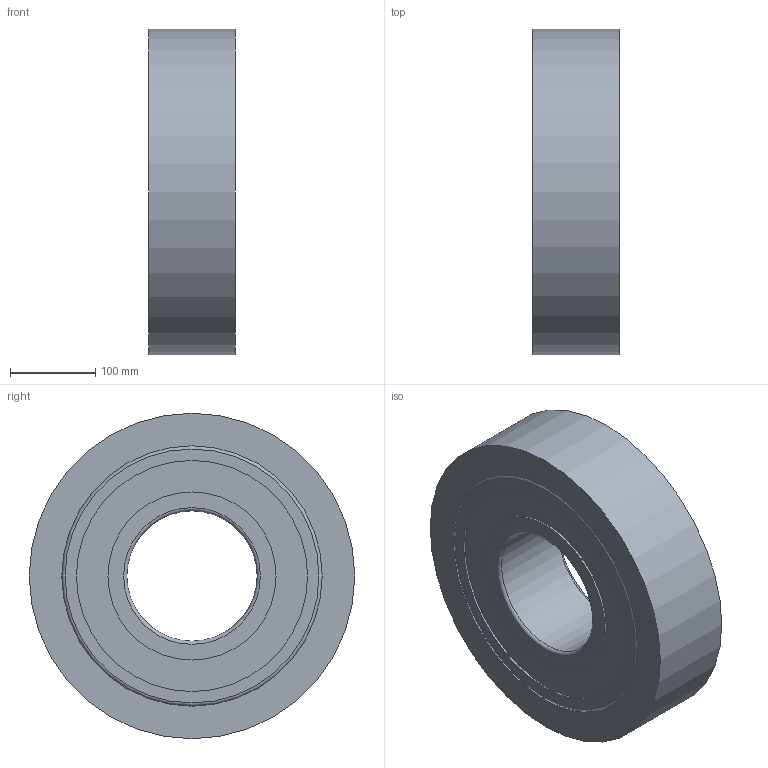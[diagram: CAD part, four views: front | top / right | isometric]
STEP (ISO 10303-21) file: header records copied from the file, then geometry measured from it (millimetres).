
FILE_DESCRIPTION((''),'1');
FILE_NAME('H:/図庫/国内ﾕﾆｯﾄ/ｶﾀﾛｸﾞ/ｺﾞﾑ直巻/ホームページ用ＣＡＤ図面/update用/3', '2017-07-14T08:54:08',(''), (''), 'KCM Version 1.1.1442.0', 'Kubotek KeyCreator', '');
FILE_SCHEMA(('AUTOMOTIVE_DESIGN'));
Length unit declared in the file: inch
Bounding box: 101.6 x 381 x 381 mm (x, y, z)
Surface area: 379143.5 mm2 (no closed solid volume)
Topology: 0 solids, 20 shells, 20 faces, 68 edges, 56 vertices
Faces by surface type: plane 8, cylinder 8, torus 4
Full cylindrical faces by diameter (mm): 152.4 x1, 196.85 x2, 270.51 x2, 304.8 x2, 381 x1
Entity records: 790 total; most frequent: DIRECTION 154, CARTESIAN_POINT 137, ORIENTED_EDGE 80, AXIS2_PLACEMENT_3D 73, EDGE_CURVE 68, VERTEX_POINT 56, CIRCLE 52, EDGE_LOOP 28
